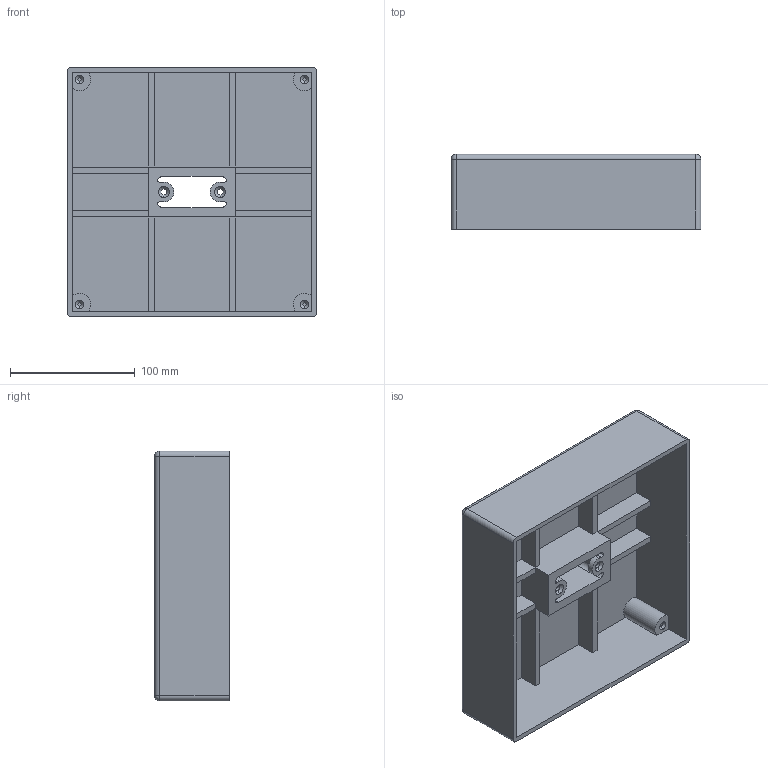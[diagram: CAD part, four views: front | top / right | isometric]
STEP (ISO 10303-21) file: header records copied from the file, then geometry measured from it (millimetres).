
FILE_DESCRIPTION (( 'STEP AP203' ), '1' );
FILE_NAME ('STL-Haube.STEP', '2020-10-10T10:05:35', ( '' ), ( '' ), 'SwSTEP 2.0', 'SolidWorks 2018', '' );
FILE_SCHEMA (( 'CONFIG_CONTROL_DESIGN' ));
Length unit declared in the file: millimetre
Products named in the file (1): STL-Haube
Bounding box: 200 x 60 x 200 mm (x, y, z)
Volume: 443479.3 mm3; surface area: 196573 mm2
Topology: 1 solids, 1 shells, 127 faces, 316 edges, 192 vertices
Faces by surface type: plane 61, cylinder 46, cone 12, sphere 4, torus 4
Entity records: 3799 total; most frequent: DIRECTION 676, CARTESIAN_POINT 632, ORIENTED_EDGE 624, EDGE_CURVE 312, AXIS2_PLACEMENT_3D 236, VECTOR 204, LINE 204, VERTEX_POINT 192
